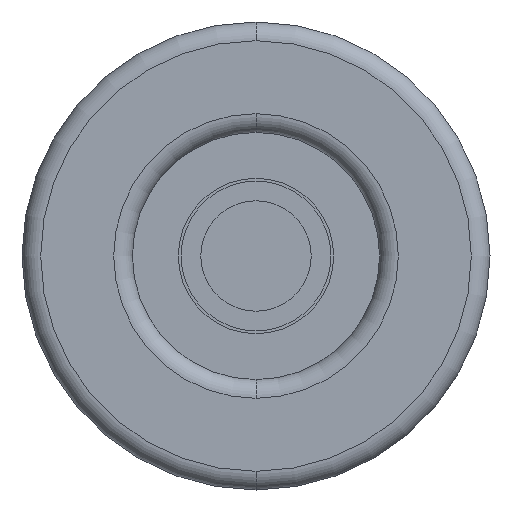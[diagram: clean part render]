
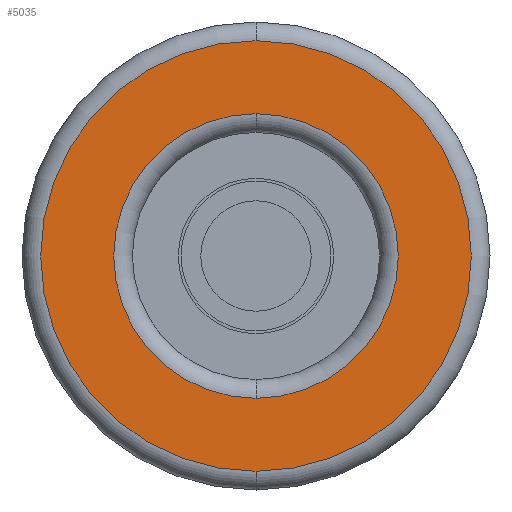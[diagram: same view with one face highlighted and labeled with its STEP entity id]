
A CAD part, front view. The second image highlights one B-rep face of the part: STEP entity #5035.
In plain terms, the highlighted planar face has unit normal (0, -1, 0).
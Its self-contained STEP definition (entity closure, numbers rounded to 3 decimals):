
#83 = CARTESIAN_POINT ( 'NONE',  ( 0., 0., 11.5 ) ) ;
#196 = AXIS2_PLACEMENT_3D ( 'NONE', #2159, #1111, #2663 ) ;
#531 = EDGE_CURVE ( 'NONE', #1795, #6308, #5317, .T. ) ;
#540 = CARTESIAN_POINT ( 'NONE',  ( 0., 0., 0. ) ) ;
#1106 = CARTESIAN_POINT ( 'NONE',  ( 0., 0., 0. ) ) ;
#1111 = DIRECTION ( 'NONE',  ( 0., 1., 0. ) ) ;
#1518 = ORIENTED_EDGE ( 'NONE', *, *, #4333, .T. ) ;
#1575 = DIRECTION ( 'NONE',  ( 0., 0., -1. ) ) ;
#1795 = VERTEX_POINT ( 'NONE', #3907 ) ;
#2065 = AXIS2_PLACEMENT_3D ( 'NONE', #5378, #3249, #6470 ) ;
#2159 = CARTESIAN_POINT ( 'NONE',  ( 0., 0., 0. ) ) ;
#2285 = FACE_BOUND ( 'NONE', #4710, .T. ) ;
#2525 = ORIENTED_EDGE ( 'NONE', *, *, #2654, .T. ) ;
#2577 = ORIENTED_EDGE ( 'NONE', *, *, #531, .T. ) ;
#2612 = DIRECTION ( 'NONE',  ( 0., -1., 0. ) ) ;
#2626 = ORIENTED_EDGE ( 'NONE', *, *, #5695, .T. ) ;
#2654 = EDGE_CURVE ( 'NONE', #6308, #1795, #3333, .T. ) ;
#2657 = CARTESIAN_POINT ( 'NONE',  ( -6.6, 0., 0. ) ) ;
#2663 = DIRECTION ( 'NONE',  ( 0., 0., -1. ) ) ;
#2885 = CIRCLE ( 'NONE', #3433, 11.5 ) ;
#3155 = AXIS2_PLACEMENT_3D ( 'NONE', #540, #5362, #6457 ) ;
#3249 = DIRECTION ( 'NONE',  ( 0., 1., 0. ) ) ;
#3333 = CIRCLE ( 'NONE', #2065, 7.6 ) ;
#3354 = CARTESIAN_POINT ( 'NONE',  ( 0., 0., -11.5 ) ) ;
#3433 = AXIS2_PLACEMENT_3D ( 'NONE', #1106, #2612, #4312 ) ;
#3850 = CIRCLE ( 'NONE', #3155, 11.5 ) ;
#3907 = CARTESIAN_POINT ( 'NONE',  ( 0., 0., 7.6 ) ) ;
#4312 = DIRECTION ( 'NONE',  ( 0., 0., -1. ) ) ;
#4333 = EDGE_CURVE ( 'NONE', #5780, #5128, #2885, .T. ) ;
#4337 = CARTESIAN_POINT ( 'NONE',  ( 0., 0., -7.6 ) ) ;
#4710 = EDGE_LOOP ( 'NONE', ( #2525, #2577 ) ) ;
#4776 = DIRECTION ( 'NONE',  ( 0., -1., 0. ) ) ;
#4852 = AXIS2_PLACEMENT_3D ( 'NONE', #2657, #4776, #1575 ) ;
#4976 = FACE_OUTER_BOUND ( 'NONE', #6594, .T. ) ;
#5035 = ADVANCED_FACE ( 'NONE', ( #2285, #4976 ), #5817, .T. ) ;
#5128 = VERTEX_POINT ( 'NONE', #3354 ) ;
#5317 = CIRCLE ( 'NONE', #196, 7.6 ) ;
#5362 = DIRECTION ( 'NONE',  ( 0., -1., 0. ) ) ;
#5378 = CARTESIAN_POINT ( 'NONE',  ( 0., 0., 0. ) ) ;
#5695 = EDGE_CURVE ( 'NONE', #5128, #5780, #3850, .T. ) ;
#5780 = VERTEX_POINT ( 'NONE', #83 ) ;
#5817 = PLANE ( 'NONE',  #4852 ) ;
#6308 = VERTEX_POINT ( 'NONE', #4337 ) ;
#6457 = DIRECTION ( 'NONE',  ( 0., 0., -1. ) ) ;
#6470 = DIRECTION ( 'NONE',  ( 0., 0., -1. ) ) ;
#6594 = EDGE_LOOP ( 'NONE', ( #2626, #1518 ) ) ;
